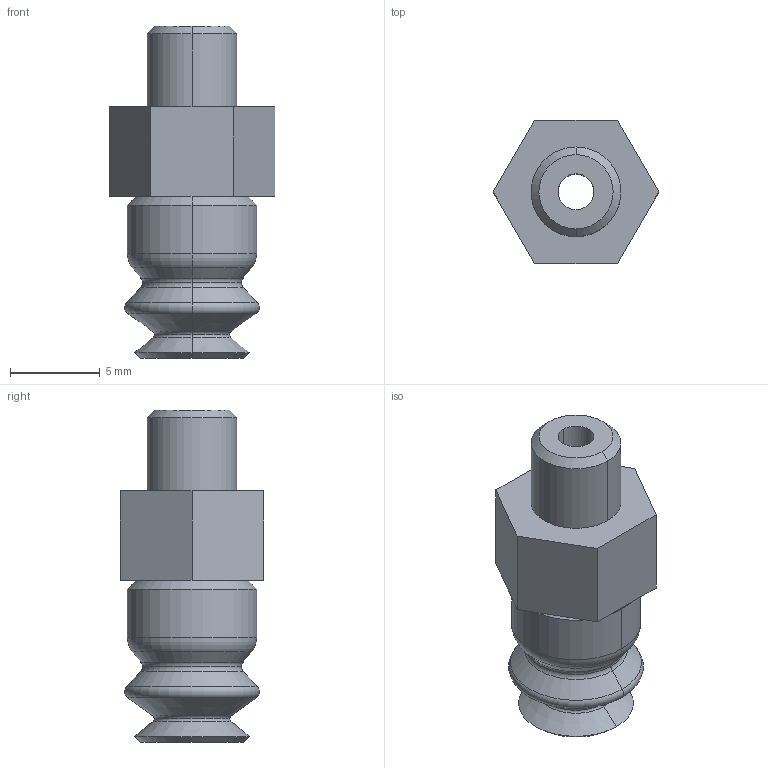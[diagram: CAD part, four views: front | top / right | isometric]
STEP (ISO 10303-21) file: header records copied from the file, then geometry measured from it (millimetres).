
FILE_DESCRIPTION (( 'STEP AP214' ), '1' );
FILE_NAME ('FSGA-6-HT1-60.STEP', '2021-06-30T08:25:41', ( '微软用户' ), ( '微软中国' ), 'SwSTEP 2.0', 'SolidWorks 2018', '' );
FILE_SCHEMA (( 'AUTOMOTIVE_DESIGN' ));
Length unit declared in the file: millimetre
Products named in the file (1): FSGA-6-HT1-60
Bounding box: 9.24 x 8 x 18.5 mm (x, y, z)
Volume: 587.6 mm3; surface area: 662.7 mm2
Topology: 1 solids, 1 shells, 45 faces, 94 edges, 54 vertices
Faces by surface type: cone 14, torus 12, plane 11, cylinder 8
Entity records: 1232 total; most frequent: DIRECTION 240, CARTESIAN_POINT 194, ORIENTED_EDGE 188, AXIS2_PLACEMENT_3D 100, EDGE_CURVE 94, CIRCLE 54, VERTEX_POINT 54, EDGE_LOOP 50
